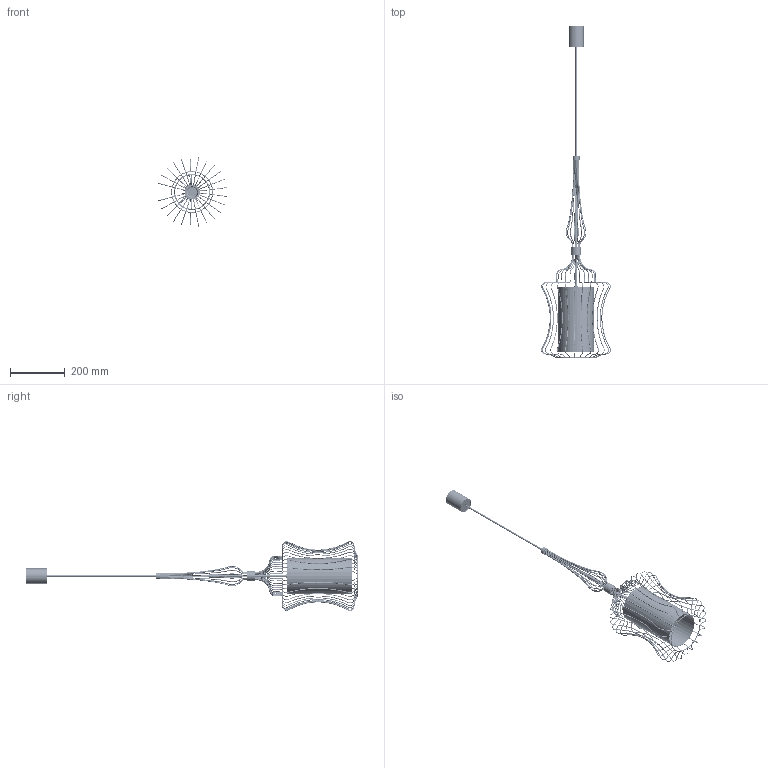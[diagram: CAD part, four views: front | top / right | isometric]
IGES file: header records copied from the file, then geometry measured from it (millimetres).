
Start section: SolidWorks IGES file using analytic representation for surfaces
Global section: file name: C:\Users\DELL\Desktop\ABI_arch ca³a lampa.IGS; native system: SolidWorks 2017; preprocessor: SolidWorks 2017; author: DELL; date: 191202.203707; units: millimetre
Bounding box: 256.83 x 1216.07 x 257.33 mm (x, y, z)
Surface area: 501162.3 mm2 (no closed solid volume)
Topology: 0 solids, 0 shells, 1524 faces, 16915 edges, 16912 vertices
Faces by surface type: bspline 854, revolution 670
